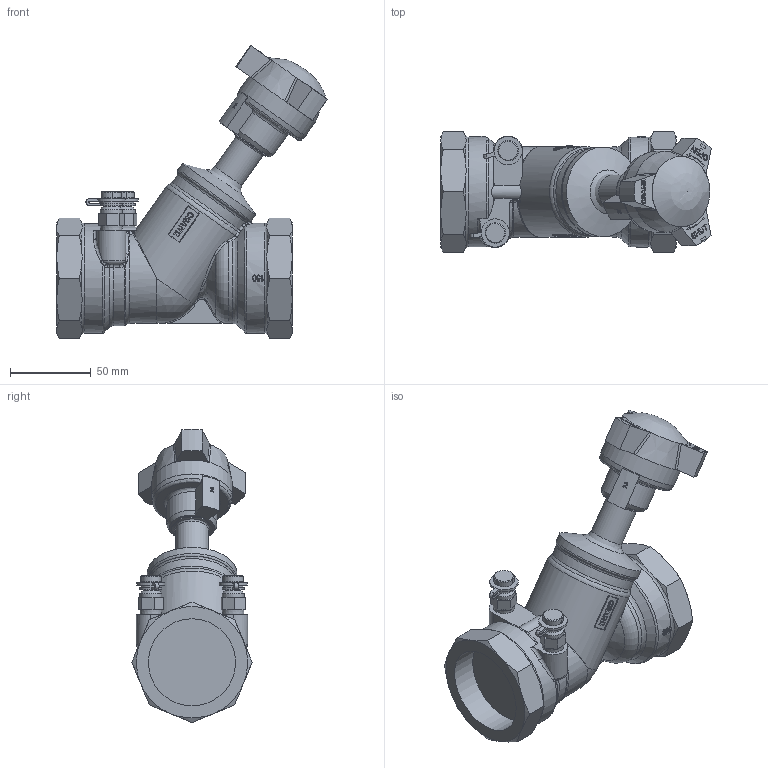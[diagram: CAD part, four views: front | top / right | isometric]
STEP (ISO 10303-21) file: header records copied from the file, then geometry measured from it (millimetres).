
FILE_DESCRIPTION((''),'2;1');
FILE_NAME('P:\Fastrack\53972_CRANE 3D\Workspace\CRANE\D931_2in\D931_2in.stp','2011-03-07T09:55:37',('btaylor'),(''),'Autodesk Inventor 2008','Autodesk Inventor 2008','');
FILE_SCHEMA(('AUTOMOTIVE_DESIGN { 1 0 10303 214 1 1 1 1 }'));
Length unit declared in the file: millimetre
Products named in the file (1): D931_2inA
Bounding box: 167.72 x 74.69 x 181.67 mm (x, y, z)
Volume: 566561.6 mm3; surface area: 68380.2 mm2
Topology: 1 solids, 1 shells, 1283 faces, 3565 edges, 2340 vertices
Faces by surface type: bspline 791, plane 352, cylinder 80, cone 48, torus 10, sphere 2
Full cylindrical faces by diameter (mm): 7.4 x2, 11 x2, 12.7 x2, 13.7 x2, 20.5 x1, 50 x1, 55.5 x1, 68 x2
Entity records: 166577 total; most frequent: CARTESIAN_POINT 138369, ORIENTED_EDGE 7004, EDGE_CURVE 3502, DIRECTION 3050, VERTEX_POINT 2315, B_SPLINE_CURVE_WITH_KNOTS 1578, VECTOR 1440, LINE 1440
